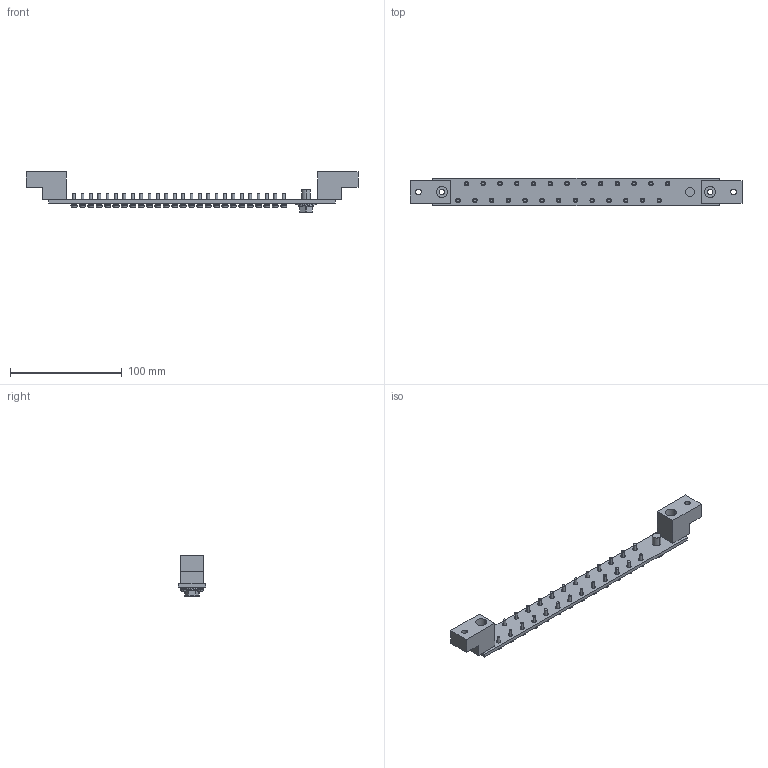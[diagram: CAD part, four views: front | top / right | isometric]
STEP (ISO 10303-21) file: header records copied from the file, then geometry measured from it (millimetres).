
FILE_DESCRIPTION(('Creo Elements/Direct Modeling STEP Export'),'2;1');
FILE_NAME('27N.stp','2025-07-24T17:30:02',(''),(''),'PTC Creo Elements/Direct Modeling STEP processor for AP214 (Solid Model)','PTC Creo Elements/Direct Modeling 19.0 09-May-2014 (C) Parametric Technology GmbH','');
FILE_SCHEMA(('AUTOMOTIVE_DESIGN { 1 0 10303 214 1 1 1 1 }'));
Length unit declared in the file: millimetre
Products named in the file (28): SCREW_1_2_PRT.PRT; SCREW_1_1_PRT.PRT; SCREW_1_ASM.ASM; SCREW_0723_STP.ASM; QUILT_3.PRT; QUILT_2.PRT; QUILT_1.PRT; USER_LIBRARY-SAN_ZU_HE_LUO_S_1_.PRT; M5_1_2.ASM; A1.ASM; M5_1_1_1_1_1_1_1_1_1_1_1_1.ASM; M5_1_1_1_1_1_1_1_1_1_1_1.ASM; M5_1_1_1_1_1_1_1_1_1_1.ASM; M5_1_1_1_1_1_1_1_1_1.ASM; M5_1_1_1_1_1_1_1_1.ASM; M5_1_1_1_1_1_1_1.ASM; M5_1_1_1_1_1_1.ASM; M5_1_1_1_1_1.ASM; M5_1_1_1_1.ASM; M5_1_1_1.ASM; M5_1_1.ASM; M5_1.ASM; M5.ASM; HOLD_1-45170.PRT; HOLD_1-45500.ASM; HOLD.ASM; CU.PRT; 27N.stp
Assembly tree (52 placements, depth 4):
  SCREW_0723_STP.ASM
    SCREW_1_ASM.ASM
      SCREW_1_1_PRT.PRT
      SCREW_1_2_PRT.PRT
  27N.stp
    CU.PRT
    HOLD.ASM
      HOLD_1-45170.PRT
    HOLD_1-45500.ASM
      HOLD_1-45170.PRT
    M5.ASM
      M5_1_2.ASM
        USER_LIBRARY-SAN_ZU_HE_LUO_S_1_.PRT
        QUILT_1.PRT
        QUILT_2.PRT
        QUILT_3.PRT
    M5_1.ASM
      M5_1_2.ASM
        USER_LIBRARY-SAN_ZU_HE_LUO_S_1_.PRT
        QUILT_1.PRT
        QUILT_2.PRT
        QUILT_3.PRT
    M5_1_1.ASM
      M5_1_2.ASM
        USER_LIBRARY-SAN_ZU_HE_LUO_S_1_.PRT
        QUILT_1.PRT
        QUILT_2.PRT
        QUILT_3.PRT
    M5_1_1_1.ASM
      M5_1_2.ASM
        USER_LIBRARY-SAN_ZU_HE_LUO_S_1_.PRT
        QUILT_1.PRT
        QUILT_2.PRT
        QUILT_3.PRT
    M5_1_1_1_1.ASM
      M5_1_2.ASM
        USER_LIBRARY-SAN_ZU_HE_LUO_S_1_.PRT
        QUILT_1.PRT
        QUILT_2.PRT
        QUILT_3.PRT
    M5_1_1_1_1_1.ASM
      M5_1_2.ASM
        USER_LIBRARY-SAN_ZU_HE_LUO_S_1_.PRT
        QUILT_1.PRT
        QUILT_2.PRT
        QUILT_3.PRT
    M5_1_1_1_1_1_1.ASM
      M5_1_2.ASM
        USER_LIBRARY-SAN_ZU_HE_LUO_S_1_.PRT
        QUILT_1.PRT
        QUILT_2.PRT
        QUILT_3.PRT
    M5_1_1_1_1_1_1_1.ASM
      M5_1_2.ASM
        USER_LIBRARY-SAN_ZU_HE_LUO_S_1_.PRT
        QUILT_1.PRT
        QUILT_2.PRT
        QUILT_3.PRT
    M5_1_1_1_1_1_1_1_1.ASM
      M5_1_2.ASM
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Bounding box: 297 x 25 x 36.2 mm (x, y, z)
Volume: 46586.8 mm3; surface area: 33172.4 mm2
Topology: 57 solids, 57 shells, 1162 faces, 2937 edges, 1923 vertices
Faces by surface type: plane 650, cylinder 404, torus 108
Entity records: 6277 total; most frequent: CARTESIAN_POINT 952, DIRECTION 918, ORIENTED_EDGE 890, EDGE_CURVE 445, AXIS2_PLACEMENT_3D 350, VERTEX_POINT 295, EDGE_LOOP 242, VECTOR 218
